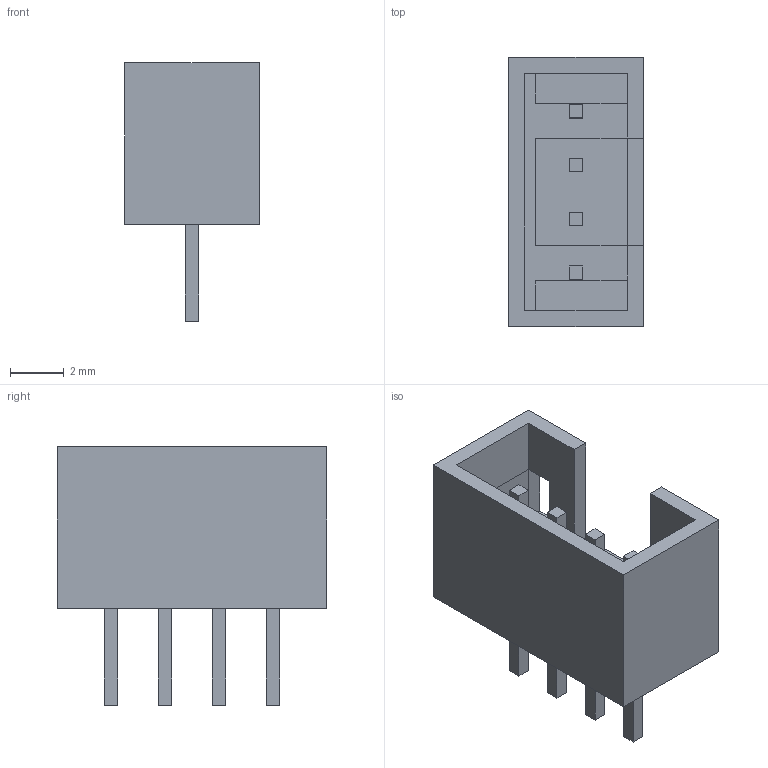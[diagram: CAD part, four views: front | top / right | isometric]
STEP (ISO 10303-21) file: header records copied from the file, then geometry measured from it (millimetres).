
FILE_DESCRIPTION(('FreeCAD Model'),'2;1');
FILE_NAME('Open CASCADE Shape Model','2021-06-28T19:28:22',('Author'),( ''),'Open CASCADE STEP processor 7.5','FreeCAD','Unknown');
FILE_SCHEMA(('AUTOMOTIVE_DESIGN { 1 0 10303 214 1 1 1 1 }'));
Length unit declared in the file: millimetre
Products named in the file (1): Group001
Bounding box: 5 x 10 x 9.6 mm (x, y, z)
Volume: 149.5 mm3; surface area: 409.4 mm2
Topology: 1 solids, 1 shells, 68 faces, 170 edges, 110 vertices
Faces by surface type: plane 68
Entity records: 4538 total; most frequent: CARTESIAN_POINT 801, DIRECTION 536, LINE 398, VECTOR 398, ORIENTED_EDGE 340, PCURVE 340, DEFINITIONAL_REPRESENTATION 340, EDGE_CURVE 170
